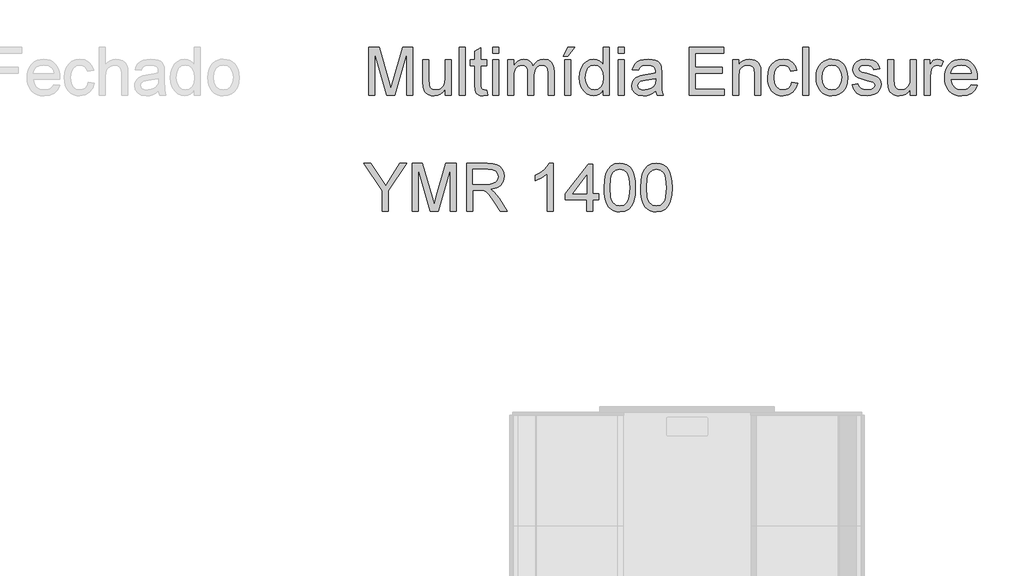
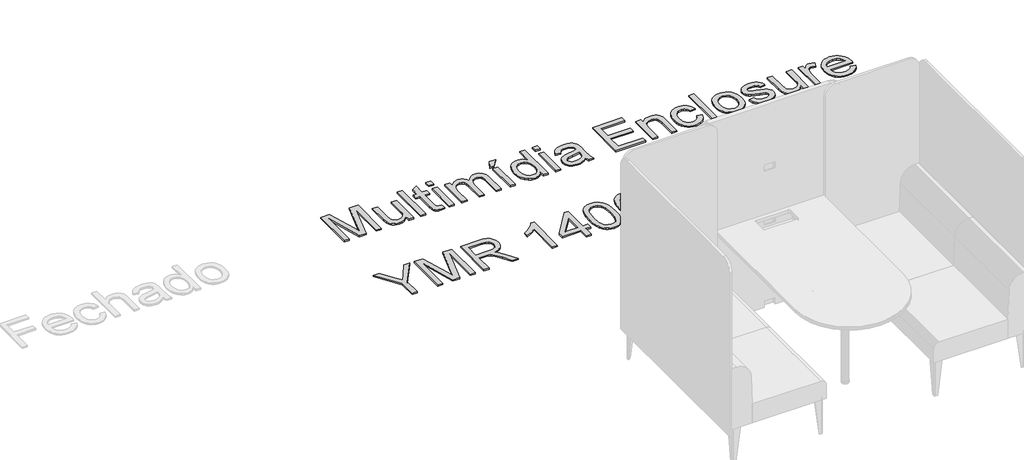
# One storey, part 13 of 26: 1 proxy.
"""IFC4 building model written with IfcOpenShell, lengths in millimetres."""

from ifc_helpers import new_model, si_unit, origin, origin_with_axes, place, context, project, spatial, polyline, outline, extrude, element, save

model = new_model("IFC4")

# Units and contexts
model_context = context("Model", 3, world=origin())
ifc_project = project(units=[si_unit("LENGTHUNIT", "METRE", prefix="MILLI")], contexts=[model_context])

# Site, building, storey
site = spatial("IfcSite", under=ifc_project)
building = spatial("IfcBuilding", under=site)
storey = spatial("IfcBuildingStorey", under=building, Name="Marelli - Linha YOUNG - Planta Baixa", Elevation=0.0)

# Proxy
placement = place(None, origin())
element("IfcBuildingElementProxy", 1, Name="300mm Arial", ObjectType="300mm Arial", at=placement, inside=storey, context=model_context, shape_type="SweptSolid", body=[
    extrude(outline(polyline([(8994.8129516, -27414.6418665), (8994.8129516, -27113.2729361), (9059.6337592, -27113.2729361), (9121.2907815, -27325.6880001), (9133.725193, -27370.0545687), (9147.189674, -27322.0091801), (9207.8166268, -27113.2729361), (9272.6374344, -27113.2729361), (9272.6374344, -27414.6418665), (9234.9663181, -27414.6418665), (9234.9663181, -27150.9440524), (9159.2562034, -27414.6418665), (9108.1941825, -27414.6418665), (9032.4840679, -27150.9440524), (9032.4840679, -27414.6418665), (8994.8129516, -27414.6418665)])), origin_with_axes(), (0.0, 0.0, 1.0), 10.0),
    extrude(outline(polyline([(9475.1196845, -27414.6418665), (9475.1196845, -27376.6028682), (9461.4896566, -27395.3050692), (9445.6155485, -27408.6637841), (9427.4973602, -27416.6790131), (9407.1350918, -27419.3507561), (9388.7869773, -27417.4745579), (9371.7080557, -27411.8459634), (9357.3790519, -27403.3846775), (9347.2806912, -27393.0104052), (9336.0602903, -27365.2721028), (9333.8529984, -27330.2497368), (9333.8529984, -27193.3240582), (9371.5241147, -27193.3240582), (9371.5241147, -27312.5178247), (9373.804983, -27350.924705), (9379.2956218, -27363.7361954), (9388.7042038, -27373.4758713), (9401.4053297, -27379.6286976), (9416.7736001, -27381.6796398), (9433.0247872, -27379.5827124), (9448.2275107, -27373.2919303), (9460.7630896, -27363.3867076), (9469.0128434, -27350.4464584), (9473.5929742, -27332.7237433), (9475.1196845, -27308.4711227), (9475.1196845, -27193.3240582), (9512.7908008, -27193.3240582), (9512.7908008, -27414.6418665), (9475.1196845, -27414.6418665)])), origin_with_axes(), (0.0, 0.0, 1.0), 10.0),
    extrude(outline(polyline([(9564.5885857, -27414.6418665), (9564.5885857, -27113.2729361), (9602.259702, -27113.2729361), (9602.259702, -27414.6418665), (9564.5885857, -27414.6418665)])), origin_with_axes(), (0.0, 0.0, 1.0), 10.0),
    extrude(outline(polyline([(9738.8174986, -27383.2247441), (9743.5263882, -27415.7455125), (9715.3466274, -27419.3507561), (9697.2652273, -27417.7872576), (9683.7823522, -27413.0967622), (9674.2542085, -27405.8678809), (9668.0370028, -27396.6892252), (9664.6157002, -27380.9254817), (9663.475266, -27353.9413373), (9663.475266, -27230.9951745), (9635.2219288, -27230.9951745), (9635.2219288, -27193.3240582), (9663.475266, -27193.3240582), (9663.475266, -27139.5397105), (9701.1463823, -27117.3932144), (9701.1463823, -27193.3240582), (9738.8174986, -27193.3240582), (9738.8174986, -27230.9951745), (9701.1463823, -27230.9951745), (9701.1463823, -27352.8376913), (9703.1329451, -27372.2618607), (9709.57088, -27379.141254), (9722.4099617, -27381.6796398), (9738.8174986, -27383.2247441)])), origin_with_axes(), (0.0, 0.0, 1.0), 10.0),
    extrude(outline(polyline([(9776.488615, -27150.9440524), (9776.488615, -27113.2729361), (9814.1597313, -27113.2729361), (9814.1597313, -27150.9440524), (9776.488615, -27150.9440524)])), origin_with_axes(), (0.0, 0.0, 1.0), 10.0),
    extrude(outline(polyline([(9776.488615, -27414.6418665), (9776.488615, -27193.3240582), (9814.1597313, -27193.3240582), (9814.1597313, -27414.6418665), (9776.488615, -27414.6418665)])), origin_with_axes(), (0.0, 0.0, 1.0), 10.0),
    extrude(outline(polyline([(9870.6664057, -27414.6418665), (9870.6664057, -27193.3240582), (9908.337522, -27193.3240582), (9908.337522, -27229.7443758), (9919.6682875, -27213.014942), (9934.2364145, -27199.9091459), (9951.5452624, -27191.438663), (9971.0981904, -27188.6151687), (9992.04907, -27191.4938453), (10008.8428831, -27200.1298751), (10021.3876591, -27213.9530411), (10029.5914276, -27232.3931261), (10043.3226231, -27213.2402697), (10058.985199, -27199.5596581), (10076.5791555, -27191.351291), (10096.1044924, -27188.6151687), (10124.4222089, -27193.1677084), (10145.3638915, -27206.8253275), (10158.3041407, -27229.9559079), (10162.6175571, -27262.9273317), (10162.6175571, -27414.6418665), (10124.9464408, -27414.6418665), (10124.9464408, -27279.1141395), (10121.4515618, -27247.6602289), (10116.5403372, -27238.9874109), (10108.7964212, -27232.1723969), (10098.8360162, -27227.757813), (10087.2753245, -27226.286285), (10066.8670708, -27230.0570755), (10050.2296076, -27241.3694468), (10039.1655566, -27260.9959512), (10035.4775396, -27289.709141), (10035.4775396, -27414.6418665), (9997.8064233, -27414.6418665), (9997.8064233, -27274.9202848), (9995.6267224, -27253.6199172), (9989.08762, -27238.4263908), (9977.5821106, -27229.3213115), (9960.5031889, -27226.286285), (9945.9902442, -27228.309636), (9932.6177337, -27234.3796889), (9921.5812739, -27244.349291), (9914.0764811, -27258.0712894), (9909.7722618, -27277.1091826), (9908.337522, -27303.0264692), (9908.337522, -27414.6418665), (9870.6664057, -27414.6418665)])), origin_with_axes(), (0.0, 0.0, 1.0), 10.0),
    extrude(outline(polyline([(10228.5420106, -27414.6418665), (10228.5420106, -27193.3240582), (10266.2131269, -27193.3240582), (10266.2131269, -27414.6418665), (10228.5420106, -27414.6418665)])), origin_with_axes(), (0.0, 0.0, 1.0), 10.0),
    extrude(outline(polyline([(10219.1242315, -27169.7796105), (10247.3775688, -27113.2729361), (10294.4664642, -27113.2729361), (10247.3775688, -27169.7796105), (10219.1242315, -27169.7796105)])), origin_with_axes(), (0.0, 0.0, 1.0), 10.0),
    extrude(outline(polyline([(10473.4042666, -27414.6418665), (10473.4042666, -27379.1044658), (10462.133282, -27396.7122178), (10448.4802614, -27409.2891835), (10432.445205, -27416.8353629), (10414.0281126, -27419.3507561), (10389.6743245, -27415.7087243), (10367.3806756, -27404.7826291), (10348.5083293, -27387.3358254), (10334.4184488, -27364.1316686), (10325.6444633, -27336.1082576), (10322.7198014, -27304.2036916), (10325.414537, -27272.6945987), (10333.4987438, -27244.2389264), (10346.9632249, -27220.4553554), (10365.798783, -27202.9625665), (10388.5798756, -27192.2020181), (10413.8809598, -27188.6151687), (10432.3118478, -27191.1811456), (10448.6090201, -27198.8790764), (10462.4229891, -27210.6788914), (10473.4042666, -27225.550521), (10473.4042666, -27113.2729361), (10511.0753829, -27113.2729361), (10511.0753829, -27414.6418665), (10473.4042666, -27414.6418665)]), holes=[polyline([(10360.3909177, -27304.0565388), (10364.6399547, -27338.1316086), (10377.3870659, -27362.365835), (10395.9099243, -27376.8511886), (10417.4862033, -27381.6796398), (10439.0532853, -27377.0719178), (10457.1070942, -27363.2487518), (10469.3299735, -27339.9526245), (10473.4042666, -27306.9260183), (10469.2563971, -27270.8184005), (10456.8127886, -27245.7840307), (10438.2991272, -27231.1607214), (10415.941099, -27226.286285), (10394.1440908, -27230.9675834), (10376.2834199, -27245.0114786), (10364.3640432, -27269.1353404), (10360.3909177, -27304.0565388)])]), origin_with_axes(), (0.0, 0.0, 1.0), 10.0),
    extrude(outline(polyline([(10567.5820574, -27150.9440524), (10567.5820574, -27113.2729361), (10605.2531737, -27113.2729361), (10605.2531737, -27150.9440524), (10567.5820574, -27150.9440524)])), origin_with_axes(), (0.0, 0.0, 1.0), 10.0),
    extrude(outline(polyline([(10567.5820574, -27414.6418665), (10567.5820574, -27193.3240582), (10605.2531737, -27193.3240582), (10605.2531737, -27414.6418665), (10567.5820574, -27414.6418665)])), origin_with_axes(), (0.0, 0.0, 1.0), 10.0),
    extrude(outline(polyline([(10803.0265343, -27386.3885293), (10785.0279077, -27401.821179), (10766.4958522, -27411.9195398), (10747.0073035, -27417.492952), (10726.1391973, -27419.3507561), (10694.6576956, -27414.8809898), (10671.4351446, -27401.4716911), (10657.115338, -27381.1094227), (10652.3420691, -27355.7807473), (10654.1446908, -27340.1641566), (10659.5525562, -27325.9823057), (10667.8942804, -27313.8421999), (10678.4984789, -27304.3508444), (10704.875618, -27291.9900093), (10737.4699628, -27286.3246266), (10775.9872076, -27280.3649383), (10802.8058051, -27273.3751804), (10803.0265343, -27264.9874709), (10800.4329662, -27248.1752637), (10792.652262, -27237.1755921), (10775.2514437, -27229.0086118), (10751.0080202, -27226.286285), (10728.5672185, -27228.0981038), (10712.8954455, -27233.5335603), (10702.2084735, -27243.5859358), (10694.7220749, -27259.2485118), (10657.0509586, -27254.5396222), (10663.5900611, -27233.9382305), (10673.348131, -27217.7514227), (10687.2356763, -27205.3721936), (10706.163205, -27196.1935378), (10729.3121795, -27190.509761), (10755.8640625, -27188.6151687), (10781.3306936, -27190.2890318), (10801.5182181, -27195.310621), (10816.7393357, -27202.861399), (10827.306746, -27212.1228282), (10834.314898, -27223.5731553), (10838.8582406, -27237.6906269), (10840.6976506, -27270.6528536), (10840.6976506, -27317.5210198), (10842.610637, -27382.9672267), (10850.1154297, -27414.6418665), (10812.4443134, -27414.6418665), (10803.0265343, -27386.3885293)]), holes=[polyline([(10803.0265343, -27311.0462967), (10742.2524287, -27322.5977913), (10709.8420249, -27328.7046325), (10695.1635333, -27338.6374463), (10690.0131854, -27353.1319969), (10692.8182856, -27364.3340037), (10701.2335862, -27373.5126595), (10715.0751463, -27379.6378947), (10734.1590248, -27381.6796398), (10754.3925345, -27379.4263625), (10772.2715995, -27372.6665309), (10786.7661501, -27362.7061259), (10796.8461168, -27350.8511286), (10801.315883, -27338.6374463), (10802.8058051, -27321.7148746), (10803.0265343, -27311.0462967)])]), origin_with_axes(), (0.0, 0.0, 1.0), 10.0),
    extrude(outline(polyline([(11014.9265635, -27414.6418665), (11014.9265635, -27113.2729361), (11231.5354823, -27113.2729361), (11231.5354823, -27150.9440524), (11052.5976798, -27150.9440524), (11052.5976798, -27240.4129536), (11222.1177032, -27240.4129536), (11222.1177032, -27278.0840699), (11052.5976798, -27278.0840699), (11052.5976798, -27376.9707502), (11236.2443718, -27376.9707502), (11236.2443718, -27414.6418665), (11014.9265635, -27414.6418665)])), origin_with_axes(), (0.0, 0.0, 1.0), 10.0),
    extrude(outline(polyline([(11288.0421567, -27414.6418665), (11288.0421567, -27193.3240582), (11325.713273, -27193.3240582), (11325.713273, -27224.2261458), (11338.800675, -27208.6463433), (11354.5184333, -27197.517913), (11372.8665478, -27190.8408548), (11393.8450185, -27188.6151687), (11412.4138623, -27190.4085934), (11429.4192075, -27195.7888676), (11443.6010584, -27204.0846066), (11453.6994192, -27214.6244258), (11464.9933964, -27242.32594), (11466.9799592, -27278.7462575), (11466.9799592, -27414.6418665), (11429.3088429, -27414.6418665), (11429.3088429, -27283.823029), (11424.9678353, -27250.4929203), (11418.9621618, -27240.5693035), (11409.6271561, -27232.8713727), (11397.6617942, -27227.9325569), (11383.7650519, -27226.286285), (11361.7013292, -27229.9834991), (11342.8933622, -27241.0751412), (11335.3770732, -27250.1296368), (11330.0082953, -27262.5042674), (11325.713273, -27297.2139337), (11325.713273, -27414.6418665), (11288.0421567, -27414.6418665)])), origin_with_axes(), (0.0, 0.0, 1.0), 10.0),
    extrude(outline(polyline([(11660.0444303, -27334.5907444), (11697.7155466, -27339.2996339), (11687.2125156, -27372.8044866), (11667.4756466, -27398.1239649), (11640.3627435, -27414.0440583), (11607.7316105, -27419.3507561), (11586.6036877, -27417.4998498), (11567.6600642, -27411.9471309), (11550.9007401, -27402.6925995), (11536.3257153, -27389.7362555), (11524.5281995, -27373.3218207), (11516.1014026, -27353.693017), (11511.0453244, -27330.8498443), (11509.359965, -27304.7923028), (11512.2386416, -27271.269056), (11520.8746715, -27242.2155754), (11535.4060103, -27218.7539012), (11555.9706138, -27202.0060733), (11580.5727222, -27191.9628949), (11607.2165758, -27188.6151687), (11639.0475654, -27193.2136936), (11664.4958024, -27207.0092685), (11682.7519464, -27229.2661292), (11693.006657, -27259.2485118), (11655.3355407, -27263.9574013), (11648.5021327, -27247.5222732), (11637.8611459, -27235.7408523), (11624.0011918, -27228.6499268), (11607.5108813, -27226.286285), (11583.1662903, -27230.9399922), (11563.8432885, -27244.901114), (11551.2341331, -27268.9238082), (11547.0310813, -27303.7622332), (11551.1421626, -27339.0697077), (11563.4754065, -27363.1751754), (11582.4489204, -27377.0535237), (11606.4808118, -27381.6796398), (11625.9877546, -27378.7917661), (11641.9814243, -27370.1281451), (11653.6156924, -27355.4680476), (11660.0444303, -27334.5907444)])), origin_with_axes(), (0.0, 0.0, 1.0), 10.0),
    extrude(outline(polyline([(11730.6777733, -27414.6418665), (11730.6777733, -27113.2729361), (11768.3488896, -27113.2729361), (11768.3488896, -27414.6418665), (11730.6777733, -27414.6418665)])), origin_with_axes(), (0.0, 0.0, 1.0), 10.0),
    extrude(outline(polyline([(11815.437785, -27303.9829624), (11817.4749316, -27275.3203564), (11823.5863712, -27250.621679), (11833.772104, -27229.88693), (11848.0321298, -27213.1161096), (11862.3887247, -27202.3969479), (11878.2352416, -27194.7404039), (11895.5716806, -27190.1464775), (11914.3980417, -27188.6151687), (11935.1810752, -27190.4798706), (11953.9729474, -27196.0739761), (11970.7736582, -27205.3974855), (11985.5832078, -27218.4503985), (11997.6704306, -27234.7912569), (12006.3041612, -27253.9786022), (12011.4843995, -27276.0124344), (12013.2111456, -27300.8927536), (12010.1577251, -27338.950146), (12000.9974634, -27367.9208531), (11985.997075, -27389.6166938), (11965.4232745, -27405.8494868), (11940.9867129, -27415.9754388), (11914.3980417, -27419.3507561), (11893.3115056, -27417.492952), (11874.3448895, -27411.9195398), (11857.4981934, -27402.6305194), (11842.7714173, -27389.6258909), (11830.8129532, -27373.1263834), (11822.2711931, -27353.3527261), (11817.146137, -27330.3049191), (11815.437785, -27303.9829624)]), holes=[polyline([(11853.1089013, -27303.909386), (11857.468303, -27338.0028499), (11870.5465079, -27362.2922586), (11890.2281946, -27376.8327945), (11914.3980417, -27381.6796398), (11938.4575242, -27376.8052033), (11958.1024227, -27362.181894), (11971.1806277, -27337.5705885), (11975.5400293, -27302.7321636), (11971.1530365, -27269.6319811), (11957.9920582, -27245.6736661), (11938.3195685, -27231.1331303), (11914.3980417, -27226.286285), (11890.2281946, -27231.1147362), (11870.5465079, -27245.6000897), (11857.468303, -27269.8343162), (11853.1089013, -27303.909386)])]), origin_with_axes(), (0.0, 0.0, 1.0), 10.0),
    extrude(outline(polyline([(12041.4644829, -27348.717413), (12079.1355992, -27344.0085235), (12085.0768934, -27360.1217548), (12096.5732057, -27371.9675551), (12113.6981126, -27379.2516186), (12136.5251904, -27381.6796398), (12159.0763567, -27379.4539537), (12174.9320707, -27372.7768955), (12184.3130616, -27363.101599), (12187.4400585, -27351.8811982), (12184.2946675, -27342.2794781), (12174.8584943, -27334.9586264), (12136.083732, -27324.2164721), (12079.3563284, -27305.7855842), (12064.9997335, -27296.5241549), (12054.5978701, -27284.2644874), (12048.2794968, -27269.7883309), (12046.1733724, -27253.8774346), (12047.8656296, -27239.2817165), (12052.9424011, -27225.8080384), (12060.9438345, -27213.9898293), (12071.4100773, -27204.3605181), (12095.3591952, -27193.2136936), (12127.7695989, -27188.6151687), (12152.2889339, -27190.4637757), (12173.6076955, -27196.0095968), (12190.7509965, -27204.710006), (12202.7439495, -27216.0223773), (12210.6902006, -27230.7836424), (12215.6933958, -27249.8307327), (12178.0222795, -27254.5396222), (12173.2674047, -27242.6846249), (12163.8588227, -27233.7542895), (12149.7045629, -27228.1532861), (12130.7126549, -27226.286285), (12109.0811936, -27228.0705127), (12094.6602194, -27233.4231957), (12086.5484214, -27241.1487176), (12083.8444887, -27250.0514619), (12088.332649, -27261.0143453), (12102.3857413, -27269.3284784), (12134.8329332, -27277.3483059), (12190.1255971, -27295.0802181), (12204.7305123, -27303.5598981), (12215.8037604, -27315.166575), (12222.7843212, -27329.9370371), (12225.1111748, -27347.9080726), (12222.379651, -27366.4861134), (12214.1850796, -27383.9605081), (12200.8401602, -27398.9608965), (12182.6575926, -27410.116918), (12160.6950375, -27417.0422966), (12136.0101556, -27419.3507561), (12098.0263396, -27414.8993839), (12070.3064313, -27401.5452675), (12051.8019669, -27379.4355596), (12041.4644829, -27348.717413)])), origin_with_axes(), (0.0, 0.0, 1.0), 10.0),
    extrude(outline(polyline([(12408.7578668, -27414.6418665), (12408.7578668, -27376.6028682), (12395.1278389, -27395.3050692), (12379.2537308, -27408.6637841), (12361.1355426, -27416.6790131), (12340.7732741, -27419.3507561), (12322.4251596, -27417.4745579), (12305.346238, -27411.8459634), (12291.0172343, -27403.3846775), (12280.9188735, -27393.0104052), (12269.6984727, -27365.2721028), (12267.4911807, -27330.2497368), (12267.4911807, -27193.3240582), (12305.162297, -27193.3240582), (12305.162297, -27312.5178247), (12307.4431654, -27350.924705), (12312.9338041, -27363.7361954), (12322.3423862, -27373.4758713), (12335.0435121, -27379.6286976), (12350.4117824, -27381.6796398), (12366.6629695, -27379.5827124), (12381.865693, -27373.2919303), (12394.401272, -27363.3867076), (12402.6510257, -27350.4464584), (12407.2311566, -27332.7237433), (12408.7578668, -27308.4711227), (12408.7578668, -27193.3240582), (12446.4289831, -27193.3240582), (12446.4289831, -27414.6418665), (12408.7578668, -27414.6418665)])), origin_with_axes(), (0.0, 0.0, 1.0), 10.0),
    extrude(outline(polyline([(12498.2267681, -27414.6418665), (12498.2267681, -27193.3240582), (12531.1889948, -27193.3240582), (12531.1889948, -27226.0655558), (12543.3658889, -27207.0828449), (12554.5862897, -27195.8992322), (12565.8434788, -27190.4361846), (12578.1307374, -27188.6151687), (12596.8927192, -27191.5214365), (12615.9490065, -27200.2402397), (12603.3674423, -27234.0118069), (12590.1236905, -27228.2176655), (12576.8799386, -27226.286285), (12565.6319466, -27228.1440891), (12555.5795711, -27233.7175013), (12547.4585761, -27242.5834574), (12542.0047255, -27254.318893), (12537.4245947, -27275.3617432), (12535.8978844, -27298.3175797), (12535.8978844, -27414.6418665), (12498.2267681, -27414.6418665)])), origin_with_axes(), (0.0, 0.0, 1.0), 10.0),
    extrude(outline(polyline([(12794.4453506, -27348.717413), (12831.3807029, -27353.4263025), (12818.0725717, -27381.2565755), (12796.8365836, -27402.0603023), (12768.150985, -27415.0281426), (12732.4940226, -27419.3507561), (12709.1197203, -27417.4860542), (12688.2930009, -27411.8919486), (12670.0138642, -27402.5684393), (12654.2823104, -27389.5155263), (12641.6317683, -27373.096493), (12632.5956668, -27353.6746229), (12627.1740059, -27331.249916), (12625.3667856, -27305.8223724), (12627.1924, -27279.5326053), (12632.6692432, -27256.3606381), (12641.7973152, -27236.3064708), (12654.576616, -27219.3701035), (12670.2667831, -27205.9148195), (12688.127454, -27196.3039024), (12708.1586286, -27190.5373521), (12730.360307, -27188.6151687), (12751.8469148, -27190.5327536), (12771.2779819, -27196.2855083), (12788.6535084, -27205.8734328), (12803.9734943, -27219.2965271), (12816.4791828, -27236.1961062), (12825.4118175, -27256.2134853), (12830.7713983, -27279.3486643), (12832.5579253, -27305.6016432), (12832.3371961, -27315.7551862), (12663.0379019, -27315.7551862), (12669.5586103, -27343.9533412), (12684.7061514, -27364.6834916), (12706.567539, -27377.4306027), (12733.2297866, -27381.6796398), (12753.2793553, -27379.7114711), (12770.1651389, -27373.8069651), (12783.8871373, -27363.5982397), (12794.4453506, -27348.717413)]), holes=[polyline([(12663.0379019, -27278.0840699), (12794.886809, -27278.0840699), (12789.7916433, -27258.181654), (12779.8036472, -27243.9446208), (12757.8410921, -27230.7008689), (12730.2131542, -27226.286285), (12704.8200995, -27229.8087551), (12683.8232346, -27240.3761654), (12669.2275165, -27256.8480818), (12663.0379019, -27278.0840699)])]), origin_with_axes(), (0.0, 0.0, 1.0), 10.0),
    extrude(outline(polyline([(9079.5729633, -28146.4907736), (9079.5729633, -28018.8357213), (8961.8507248, -27845.1218432), (9006.2908699, -27845.1218432), (9069.1251146, -27937.9016823), (9101.278001, -27985.2113069), (9133.5044638, -27934.517168), (9190.526173, -27845.1218432), (9234.9663181, -27845.1218432), (9117.2440796, -28018.8357213), (9117.2440796, -28146.4907736), (9079.5729633, -28146.4907736)])), origin_with_axes(), (0.0, 0.0, 1.0), 10.0),
    extrude(outline(polyline([(9267.9285448, -28146.4907736), (9267.9285448, -27845.1218432), (9332.7493524, -27845.1218432), (9394.4063748, -28057.5369072), (9406.8407862, -28101.9034758), (9420.3052672, -28053.8580872), (9480.93222, -27845.1218432), (9545.7530276, -27845.1218432), (9545.7530276, -28146.4907736), (9508.0819113, -28146.4907736), (9508.0819113, -27882.7929595), (9432.3717967, -28146.4907736), (9381.3097757, -28146.4907736), (9305.5996611, -27882.7929595), (9305.5996611, -28146.4907736), (9267.9285448, -28146.4907736)])), origin_with_axes(), (0.0, 0.0, 1.0), 10.0),
    extrude(outline(polyline([(9611.6774811, -28146.4907736), (9611.6774811, -27845.1218432), (9741.5398254, -27845.1218432), (9776.4426297, -27847.1543912), (9801.8356844, -27853.2520352), (9820.3953311, -27864.5092243), (9834.7979112, -27882.0204073), (9844.0409463, -27903.734642), (9847.121958, -27927.6009865), (9842.0175953, -27957.2890635), (9826.7045073, -27981.900369), (9815.1047281, -27991.9297519), (9800.7228414, -27999.9449808), (9763.6127451, -28009.932977), (9785.0234772, -28026.0462084), (9815.5576828, -28064.8209707), (9865.8103634, -28146.4907736), (9822.032406, -28146.4907736), (9782.8161853, -28084.0244108), (9754.4892716, -28042.6744746), (9734.5868557, -28023.1399406), (9716.6710025, -28015.9662417), (9694.818812, -28014.6418665), (9649.3485974, -28014.6418665), (9649.3485974, -28146.4907736), (9611.6774811, -28146.4907736)]), holes=[polyline([(9649.3485974, -27976.9707502), (9733.6671507, -27976.9707502), (9757.882983, -27975.637178), (9776.6725559, -27971.6364613), (9790.8176187, -27964.7018857), (9801.0999204, -27954.5667367), (9807.3631114, -27942.3070692), (9809.4508417, -27928.9989381), (9805.4685191, -27910.6232324), (9793.5215513, -27895.8159821), (9772.9661448, -27886.0487151), (9743.1585062, -27882.7929595), (9649.3485974, -27882.7929595), (9649.3485974, -27976.9707502)])]), origin_with_axes(), (0.0, 0.0, 1.0), 10.0),
    extrude(outline(polyline([(10157.9086676, -28146.4907736), (10120.2375512, -28146.4907736), (10120.2375512, -27911.6349079), (10084.5529977, -27937.0555537), (10044.8953186, -27956.0750529), (10044.8953186, -27920.4640758), (10074.4822281, -27904.3692385), (10100.1144061, -27885.2209806), (10120.3203247, -27864.8587122), (10133.6284559, -27845.1218432), (10157.9086676, -27845.1218432), (10157.9086676, -28146.4907736)])), origin_with_axes(), (0.0, 0.0, 1.0), 10.0),
    extrude(outline(polyline([(10369.8086968, -28146.4907736), (10369.8086968, -28075.8574305), (10233.2509002, -28075.8574305), (10233.2509002, -28038.1863142), (10379.2264758, -27849.8307327), (10407.4798131, -27849.8307327), (10407.4798131, -28038.1863142), (10445.1509294, -28038.1863142), (10445.1509294, -28075.8574305), (10407.4798131, -28075.8574305), (10407.4798131, -28146.4907736), (10369.8086968, -28146.4907736)]), holes=[polyline([(10369.8086968, -28038.1863142), (10369.8086968, -27921.7884509), (10279.6040316, -28038.1863142), (10369.8086968, -28038.1863142)])]), origin_with_axes(), (0.0, 0.0, 1.0), 10.0),
    extrude(outline(polyline([(10478.1131562, -27998.2343295), (10480.8814682, -27949.9958029), (10489.1864042, -27911.5245433), (10502.9451908, -27882.2319394), (10522.0750546, -27861.5293801), (10546.7139512, -27849.2237274), (10576.9998365, -27845.1218432), (10600.2131904, -27847.5498643), (10620.9985231, -27854.8339278), (10638.3809474, -27866.6889251), (10651.3855759, -27882.8297477), (10661.2080252, -27903.1184397), (10669.0439117, -27927.4170455), (10674.1758655, -27958.2731478), (10675.8865168, -27998.2343295), (10673.1457959, -28046.1969447), (10664.9236333, -28084.5762338), (10651.2476201, -28113.8964288), (10632.1453475, -28134.6817616), (10607.4512686, -28147.0701877), (10576.9998365, -28151.1996631), (10556.2512919, -28149.4062384), (10537.8571922, -28144.0259642), (10521.8175372, -28135.0588406), (10508.132327, -28122.5048675), (10494.9989397, -28099.8111469), (10485.6179489, -28071.5348171), (10479.9893543, -28037.675878), (10478.1131562, -27998.2343295)]), holes=[polyline([(10515.7842725, -27998.1607531), (10520.1988564, -28057.4173455), (10525.7170863, -28077.6853442), (10533.4426082, -28091.7131445), (10553.1610832, -28108.0746963), (10576.9998365, -28113.5285468), (10600.8385897, -28108.0563022), (10620.5570647, -28091.6395681), (10628.2825866, -28077.5887752), (10633.8008165, -28057.325375), (10638.2154005, -27998.1607531), (10633.9479693, -27940.237733), (10628.6136804, -27920.0364129), (10621.1456759, -27905.6752196), (10601.4639891, -27888.5135245), (10576.5583781, -27882.7929595), (10552.9771422, -27887.8329428), (10534.0312194, -27902.9528928), (10526.0481801, -27918.5878776), (10520.3460092, -27939.6675159), (10515.7842725, -27998.1607531)])]), origin_with_axes(), (0.0, 0.0, 1.0), 10.0),
    extrude(outline(polyline([(10708.8487435, -27998.2343295), (10711.6170555, -27949.9958029), (10719.9219916, -27911.5245433), (10733.6807782, -27882.2319394), (10752.810642, -27861.5293801), (10777.4495386, -27849.2237274), (10807.7354238, -27845.1218432), (10830.9487777, -27847.5498643), (10851.7341105, -27854.8339278), (10869.1165347, -27866.6889251), (10882.1211633, -27882.8297477), (10891.9436125, -27903.1184397), (10899.779499, -27927.4170455), (10904.9114529, -27958.2731478), (10906.6221041, -27998.2343295), (10903.8813833, -28046.1969447), (10895.6592207, -28084.5762338), (10881.9832075, -28113.8964288), (10862.8809349, -28134.6817616), (10838.186856, -28147.0701877), (10807.7354238, -28151.1996631), (10786.9868793, -28149.4062384), (10768.5927795, -28144.0259642), (10752.5531246, -28135.0588406), (10738.8679143, -28122.5048675), (10725.7345271, -28099.8111469), (10716.3535362, -28071.5348171), (10710.7249417, -28037.675878), (10708.8487435, -27998.2343295)]), holes=[polyline([(10746.5198598, -27998.1607531), (10750.9344438, -28057.4173455), (10756.4526737, -28077.6853442), (10764.1781956, -28091.7131445), (10783.8966705, -28108.0746963), (10807.7354238, -28113.5285468), (10831.5741771, -28108.0563022), (10851.2926521, -28091.6395681), (10859.018174, -28077.5887752), (10864.5364039, -28057.325375), (10868.9509878, -27998.1607531), (10864.6835567, -27940.237733), (10859.3492678, -27920.0364129), (10851.8812633, -27905.6752196), (10832.1995765, -27888.5135245), (10807.2939654, -27882.7929595), (10783.7127295, -27887.8329428), (10764.7668068, -27902.9528928), (10756.7837675, -27918.5878776), (10751.0815966, -27939.6675159), (10746.5198598, -27998.1607531)])]), origin_with_axes(), (0.0, 0.0, 1.0), 10.0),
])

save(model, "model.ifc")
